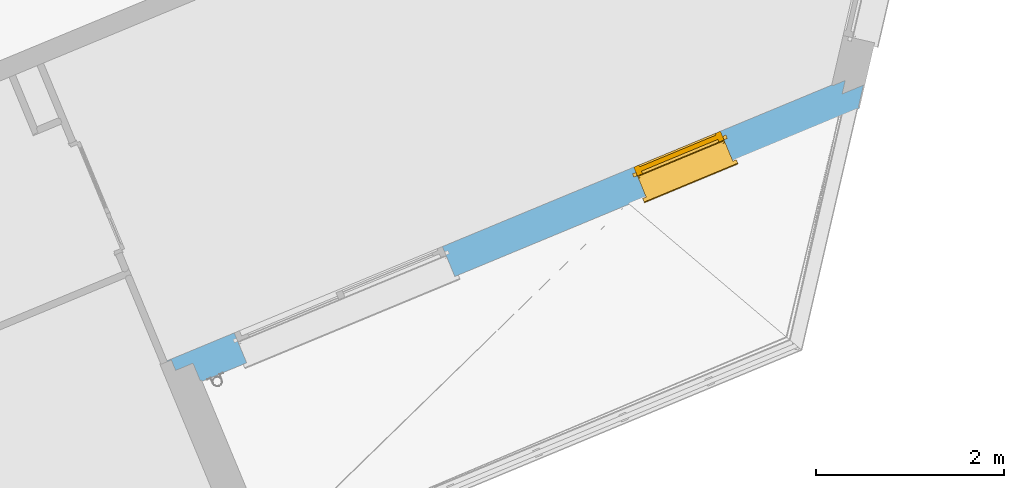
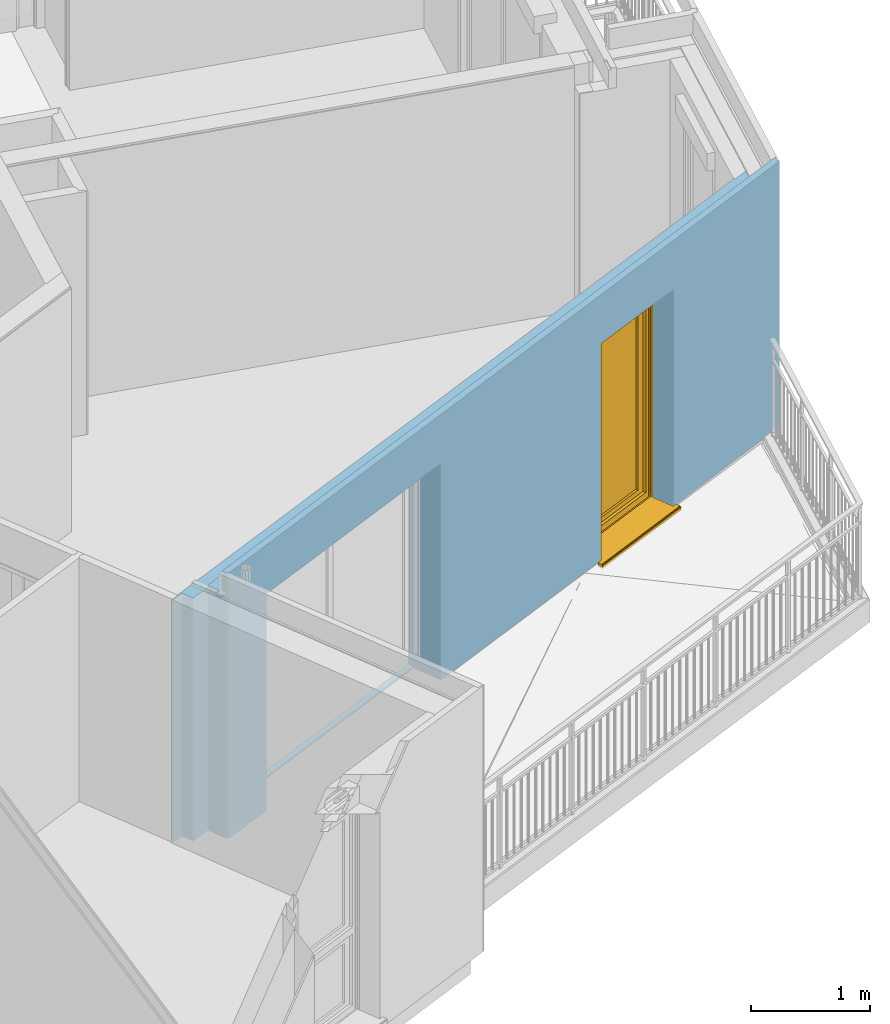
# One storey, part 13 of 91: 1 window, 2 openings, plus 1 element that does not belong to this part.
"""IFC2X3 building model written with IfcOpenShell, lengths in metres."""

from ifc_helpers import new_model, entity, si_unit, converted_unit, derived_unit, money_unit, direction, frame, origin_with_axes, place, context, subcontext, project, spatial, open_shell, faceted_brep, surface_model, source, transform, mapped, material, material_list, type_object, element, fill, save


model = new_model("IFC2X3")

# Units and contexts
model_context = context("Model", 3, precision=1e-05, world=origin_with_axes(), true_north=direction((0.0, 1.0)))
body_context = subcontext(model_context, "Body", "Model", "MODEL_VIEW")
ifc_project = project(units=[si_unit("LENGTHUNIT", "METRE"), si_unit("AREAUNIT", "SQUARE_METRE"), si_unit("VOLUMEUNIT", "CUBIC_METRE"), converted_unit("PLANEANGLEUNIT", "DEGREE", entity("IfcPlaneAngleMeasure", 0.0174532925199), si_unit("PLANEANGLEUNIT", "RADIAN"), dimensions=[0, 0, 0, 0, 0, 0, 0]), si_unit("SOLIDANGLEUNIT", "STERADIAN"), money_unit("EUR"), converted_unit("TIMEUNIT", "Year", entity("IfcTimeMeasure", 31556926.0), si_unit("TIMEUNIT", "SECOND"), dimensions=[0, 0, 1, 0, 0, 0, 0]), si_unit("MASSUNIT", "GRAM", prefix="KILO"), si_unit("THERMODYNAMICTEMPERATUREUNIT", "DEGREE_CELSIUS"), si_unit("LUMINOUSINTENSITYUNIT", "LUMEN"), si_unit("ENERGYUNIT", "JOULE", prefix="MEGA"), derived_unit("THERMALCONDUCTANCEUNIT", [(si_unit("POWERUNIT", "WATT"), 1), (si_unit("LENGTHUNIT", "METRE"), -1), (si_unit("THERMODYNAMICTEMPERATUREUNIT", "KELVIN"), -1)]), derived_unit("SPECIFICHEATCAPACITYUNIT", [(si_unit("ENERGYUNIT", "JOULE"), 1), (si_unit("MASSUNIT", "GRAM", prefix="KILO"), -1), (si_unit("THERMODYNAMICTEMPERATUREUNIT", "KELVIN"), -1)]), derived_unit("MASSDENSITYUNIT", [(si_unit("MASSUNIT", "GRAM", prefix="KILO"), 1), (si_unit("VOLUMEUNIT", "CUBIC_METRE"), -1)])], contexts=[model_context])

# Site, building, storey
site_placement = place(None, origin_with_axes())
site = spatial("IfcSite", under=ifc_project, at=site_placement, Name="Site", CompositionType="ELEMENT")
building_placement = place(site_placement, origin_with_axes())
building = spatial("IfcBuilding", under=site, at=building_placement, Name="Bâtiment", CompositionType="ELEMENT")
storey_placement = place(building_placement, frame((0.0, 0.0, 5.44), z_axis=(0.0, 0.0, 1.0), x_axis=(1.0, 0.0, 0.0)))
storey = spatial("IfcBuildingStorey", under=building, at=storey_placement, Name="R+2", CompositionType="ELEMENT", Elevation=5.44)

# Wall, openings, window
ifc_material_1 = material(Name="Finition int - Plaque de plâtre")
ifc_material_2 = material(Name="Isolation - Polystyrène extrudé")
ifc_material_3 = material(Name="Bloc ELITHERM")
ifc_material_4 = material(Name="Mortier")
ifc_material_5 = material(Name="Béton cellulaire")
ifc_material_6 = material(Name="Finition ext - Crépis")
ifc_material_list = material_list([ifc_material_1, ifc_material_2, ifc_material_3, ifc_material_4, ifc_material_5, ifc_material_6])
wall_type = type_object("IfcWallType", Name="Mur ALKERN + planelle 21 345 x 2720", PredefinedType="USERDEFINED")
wall_placement = place(storey_placement, frame((-14.6264330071, -23.0257640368, 0.0), z_axis=(0.0, 0.0, 1.0), x_axis=(0.923701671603, 0.383112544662, 0.0)))
wall = element("IfcWall", 1, at=wall_placement, inside=storey, type_object=wall_type, material=ifc_material_list, Name="Mue bloc ALKERN isolé", ObjectType="SOLIDWALL", context=body_context, shape_type="Brep", body=[
    faceted_brep([(-0.33499999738, 0.335000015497, 0.0), (7.40679732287, 0.335000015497, 0.0), (7.40679732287, 0.335000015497, 2.49), (-0.0829999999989, 0.335000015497, 2.49), (-0.33499999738, 0.335000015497, 2.49000000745), (0.514335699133, 0.335000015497, 2.22), (0.514335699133, 0.335000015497, 2.4), (2.91433569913, 0.335000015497, 2.4), (2.91433569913, 0.335000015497, 2.22), (2.91433569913, 0.335000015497, 0.02), (0.514335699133, 0.335000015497, 0.02), (5.12005784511, 0.335000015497, 2.22), (5.12005784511, 0.335000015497, 2.4), (6.12005784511, 0.335000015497, 2.4), (6.12005784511, 0.335000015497, 2.22), (6.12005784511, 0.335000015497, 0.02), (5.12005784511, 0.335000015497, 0.02), (-0.33499999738, 0.34499998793, 0.0), (7.41393608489, 0.34499998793, 0.0), (7.41393608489, 0.34499998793, 2.49), (-0.0829999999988, 0.34499998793, 2.49), (-0.0149999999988, 0.34499998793, 2.49), (-0.33499999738, 0.34499998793, 2.49000000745), (0.514335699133, 0.34499998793, 2.22), (0.514335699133, 0.34499998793, 2.4), (2.91433569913, 0.34499998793, 2.4), (2.91433569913, 0.34499998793, 2.22), (2.91433569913, 0.34499998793, 0.02), (0.514335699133, 0.34499998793, 0.02), (5.12005784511, 0.34499998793, 2.22), (5.12005784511, 0.34499998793, 2.4), (6.12005784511, 0.34499998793, 2.4), (6.12005784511, 0.34499998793, 2.22), (6.12005784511, 0.34499998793, 0.02), (5.12005784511, 0.34499998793, 0.02)], [[[0, 1, 2, 3, 4], [5, 6, 7, 8, 9, 10], [11, 12, 13, 14, 15, 16]], [[17, 18, 1, 0]], [[19, 2, 1, 18]], [[20, 3, 2, 19, 21]], [[4, 3, 20, 22]], [[17, 0, 4, 22]], [[23, 24, 6, 5]], [[24, 25, 7, 6]], [[25, 26, 8, 7]], [[27, 9, 8, 26]], [[28, 10, 9, 27]], [[10, 28, 23, 5]], [[12, 11, 29, 30]], [[13, 12, 30, 31]], [[14, 13, 31, 32]], [[14, 32, 33, 15]], [[15, 33, 34, 16]], [[29, 11, 16, 34]], [[21, 19, 18, 17, 22, 20], [24, 23, 28, 27, 26, 25], [30, 29, 34, 33, 32, 31]]]),
    faceted_brep([(6.12005784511, 0.245, 0.02), (6.12005784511, 0.215000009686, 0.02), (6.12005784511, 0.215, 2.22), (6.12005784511, 0.245, 2.22), (6.12005784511, 0.215000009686, 0.0), (6.12005784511, 0.286, 0.02), (6.12005784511, 0.286, 0.0), (5.12005784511, 0.215000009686, 0.0), (5.12005784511, 0.215000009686, 0.02), (5.12005784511, 0.215, 2.22), (5.12005784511, 0.215, 2.4), (6.12005784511, 0.215, 2.4), (7.46857198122, 0.215000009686, 0.0), (7.46857198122, 0.214999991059, 2.49), (-0.0829999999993, 0.215000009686, 2.49), (-0.214999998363, 0.215000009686, 2.49000000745), (-0.214999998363, 0.215000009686, 0.0), (0.514335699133, 0.215000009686, 0.0), (0.514335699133, 0.215000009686, 0.02), (0.514335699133, 0.215, 2.22), (0.514335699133, 0.215, 2.4), (2.91433569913, 0.215, 2.4), (2.91433569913, 0.215, 2.22), (2.91433569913, 0.215000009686, 0.02), (2.91433569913, 0.215000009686, 0.0), (6.12005784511, 0.335000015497, 2.4), (6.12005784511, 0.335000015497, 2.22), (6.12005784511, 0.335000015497, 0.02), (5.12005784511, 0.286, 0.02), (5.12005784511, 0.286, 0.0), (2.91433569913, 0.286, 0.0), (0.514335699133, 0.286, 0.0), (-0.214999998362, 0.335000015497, 0.0), (7.5542373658, 0.335000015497, 0.0), (5.12005784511, 0.245, 0.02), (5.12005784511, 0.245, 2.22), (5.12005784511, 0.335000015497, 2.22), (5.12005784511, 0.335000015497, 2.4), (7.5542373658, 0.335000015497, 2.49), (-0.0829999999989, 0.335000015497, 2.49), (-0.214999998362, 0.335000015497, 2.49000000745), (0.514335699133, 0.286, 0.02), (0.514335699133, 0.245, 0.02), (0.514335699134, 0.245, 2.22), (0.514335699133, 0.335000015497, 2.22), (0.514335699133, 0.335000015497, 2.4), (2.91433569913, 0.335000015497, 2.4), (2.91433569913, 0.335000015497, 2.22), (2.91433569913, 0.245, 2.22), (2.91433569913, 0.245, 0.02), (2.91433569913, 0.286, 0.02), (2.91433569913, 0.335000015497, 0.02), (0.514335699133, 0.335000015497, 0.02), (5.12005784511, 0.335000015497, 0.02)], [[[0, 1, 2, 3]], [[4, 1, 0, 5, 6]], [[7, 8, 9, 10, 11, 2, 1, 4, 12, 13, 14, 15, 16, 17, 18, 19, 20, 21, 22, 23, 24]], [[25, 26, 3, 2, 11]], [[5, 0, 3, 26, 27]], [[5, 28, 29, 6]], [[29, 7, 24, 30, 31, 17, 16, 32, 33, 12, 4, 6]], [[34, 8, 7, 29, 28]], [[8, 34, 35, 9]], [[35, 36, 37, 10, 9]], [[10, 37, 25, 11]], [[38, 13, 12, 33]], [[13, 38, 39, 14]], [[15, 14, 39, 40]], [[32, 16, 15, 40]], [[31, 41, 42, 18, 17]], [[18, 42, 43, 19]], [[20, 19, 43, 44, 45]], [[20, 45, 46, 21]], [[22, 21, 46, 47, 48]], [[49, 23, 22, 48]], [[50, 30, 24, 23, 49]], [[33, 32, 40, 39, 38], [51, 47, 46, 45, 44, 52], [27, 26, 25, 37, 36, 53]], [[28, 5, 27, 53]], [[50, 41, 31, 30]], [[34, 28, 53, 36, 35]], [[44, 43, 42, 41, 52]], [[47, 51, 50, 49, 48]], [[41, 50, 51, 52]]]),
    faceted_brep([(6.12005784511, 0.015, 0.02), (6.12005784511, 0.015, 0.0), (7.57152969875, 0.015, 0.0), (7.57152969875, 0.015, 2.50999999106), (-0.0149999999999, 0.015, 2.50999999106), (-0.0149999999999, 0.015, 0.0), (0.514335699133, 0.015, 0.0), (0.514335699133, 0.015, 0.02), (0.514335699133, 0.015, 2.22), (2.91433569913, 0.015, 2.22), (2.91433569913, 0.015, 0.02), (2.91433569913, 0.015, 0.0), (5.12005784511, 0.015, 0.0), (5.12005784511, 0.015, 0.02), (5.12005784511, 0.015, 2.22), (6.12005784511, 0.015, 2.22), (6.12005784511, 0.214999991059, 0.02), (6.12005784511, 0.214999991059, 0.0), (6.12005784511, 0.214999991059, 2.22), (7.71430532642, 0.214999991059, 0.0), (7.71430532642, 0.214999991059, 2.50999999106), (7.62007340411, 0.0829999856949, 2.50999999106), (-0.0149999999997, 0.0829999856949, 2.50999999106), (-0.0149999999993, 0.214999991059, 0.0), (-0.0149999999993, 0.214999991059, 2.50999999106), (0.514335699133, 0.214999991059, 0.0), (0.514335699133, 0.214999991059, 0.02), (0.514335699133, 0.214999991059, 2.22), (2.91433569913, 0.214999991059, 2.22), (2.91433569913, 0.214999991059, 0.02), (2.91433569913, 0.214999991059, 0.0), (5.12005784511, 0.214999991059, 0.0), (5.12005784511, 0.214999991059, 0.02), (5.12005784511, 0.214999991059, 2.22)], [[[0, 1, 2, 3, 4, 5, 6, 7, 8, 9, 10, 11, 12, 13, 14, 15]], [[16, 17, 1, 0, 15, 18]], [[1, 17, 19, 2]], [[3, 2, 19, 20, 21]], [[3, 21, 22, 4]], [[23, 5, 4, 22, 24]], [[5, 23, 25, 6]], [[7, 6, 25, 26, 27, 8]], [[28, 9, 8, 27]], [[29, 30, 11, 10, 9, 28]], [[31, 12, 11, 30]], [[13, 12, 31, 32, 33, 14]], [[14, 33, 18, 15]], [[17, 16, 18, 33, 32, 31, 30, 29, 28, 27, 26, 25, 23, 24, 20, 19]], [[21, 20, 24, 22]]]),
    faceted_brep([(7.57152969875, 0.015, 2.51999999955), (7.62007341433, 0.083, 2.51999999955), (-0.0829999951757, 0.083, 2.52), (-0.0829999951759, 0.015, 2.52), (7.62007341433, 0.083, 2.50999999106), (7.57152969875, 0.015, 2.50999999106), (-0.0829999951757, 0.083, 2.51), (-0.0829999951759, 0.015, 2.51)], [[[0, 1, 2, 3]], [[4, 1, 0, 5]], [[1, 4, 6, 2]], [[6, 7, 3, 2]], [[5, 0, 3, 7]], [[4, 5, 7, 6]]]),
    faceted_brep([(7.57152969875, 0.015, 2.72), (7.60579585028, 0.0629999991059, 2.72), (-0.0149999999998, 0.0629999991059, 2.72), (-0.015, 0.015, 2.72), (7.60579585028, 0.0629999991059, 2.51999999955), (7.57152969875, 0.015, 2.51999999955), (-0.0149999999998, 0.0629999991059, 2.51999999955), (-0.0149999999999, 0.015, 2.51999999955)], [[[0, 1, 2, 3]], [[4, 1, 0, 5]], [[1, 4, 6, 2]], [[7, 3, 2, 6]], [[5, 0, 3, 7]], [[4, 5, 7, 6]]]),
    faceted_brep([(6.12005784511, 0.0, 0.02), (6.12005784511, 0.0, 0.0), (7.36423482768, 0.0, 0.0), (7.3764975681, 0.0, 0.0106237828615), (7.54855877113, 0.0, 0.0193762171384), (7.56082151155, 0.0, 0.01), (7.56082151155, 0.0, 0.0), (7.57925150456, 0.0, 0.0), (7.57925150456, 0.0, 2.72), (0.0, 0.0, 2.72), (0.0, 0.0, 0.0), (0.514335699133, 0.0, 0.0), (0.514335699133, 0.0, 0.02), (0.514335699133, 0.0, 2.22), (2.91433569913, 0.0, 2.22), (2.91433569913, 0.0, 0.02), (2.91433569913, 0.0, 0.0), (5.12005784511, 0.0, 0.0), (5.12005784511, 0.0, 0.02), (5.12005784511, 0.0, 2.22), (6.12005784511, 0.0, 2.22), (6.12005784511, 0.0149999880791, 0.02), (6.12005784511, 0.0149999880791, 0.0), (7.37494299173, 0.0149999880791, 0.0), (7.38720573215, 0.0149999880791, 0.0106237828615), (7.55926693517, 0.0149999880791, 0.0193762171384), (7.57152967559, 0.0149999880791, 0.01), (7.57152967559, 0.0149999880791, 0.0), (7.5899596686, 0.0149999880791, 0.0), (7.5899596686, 0.0149999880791, 2.72), (0.0, 0.0149999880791, 2.72), (0.0, 0.0149999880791, 0.0), (0.514335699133, 0.0149999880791, 0.0), (0.514335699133, 0.0149999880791, 0.02), (0.514335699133, 0.0149999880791, 2.22), (2.91433569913, 0.0149999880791, 2.22), (2.91433569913, 0.0149999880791, 0.02), (2.91433569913, 0.0149999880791, 0.0), (5.12005784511, 0.0149999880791, 0.0), (5.12005784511, 0.0149999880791, 0.02), (5.12005784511, 0.0149999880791, 2.22), (6.12005784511, 0.0149999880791, 2.22)], [[[0, 1, 2, 3, 4, 5, 6, 7, 8, 9, 10, 11, 12, 13, 14, 15, 16, 17, 18, 19, 20]], [[1, 0, 21, 22]], [[1, 22, 23, 2]], [[2, 23, 24, 3]], [[3, 24, 25, 4]], [[4, 25, 26, 5]], [[5, 26, 27, 6]], [[7, 6, 27, 28]], [[8, 7, 28, 29]], [[29, 30, 9, 8]], [[10, 9, 30, 31]], [[10, 31, 32, 11]], [[11, 32, 33, 12]], [[34, 13, 12, 33]], [[35, 14, 13, 34]], [[14, 35, 36, 15]], [[36, 37, 16, 15]], [[38, 17, 16, 37]], [[39, 18, 17, 38]], [[18, 39, 40, 19]], [[19, 40, 41, 20]], [[21, 0, 20, 41]], [[22, 21, 41, 40, 39, 38, 37, 36, 35, 34, 33, 32, 31, 30, 29, 28, 27, 26, 25, 24, 23]]]),
])
opening_1_placement = place(wall_placement, frame((1.71433569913, 0.0, 0.02), z_axis=(0.0, 0.0, 1.0), x_axis=(1.0, 0.0, 0.0)))
element("IfcOpeningElement", 2, at=opening_1_placement, cuts=wall, Name="MEN 92", context=body_context, shape_type="Brep", body=[
    faceted_brep([(-1.2, 0.83499998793, 0.0), (1.2, 0.83499998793, 0.0), (1.2, 0.245, 0.0), (-1.2, 0.245, 0.0), (-1.2, 0.83499998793, 2.2), (1.2, 0.83499998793, 2.2), (1.2, 0.245, 2.2), (-1.2, 0.245, 2.2)], [[[0, 1, 2, 3]], [[0, 4, 5, 1]], [[1, 5, 6, 2]], [[3, 2, 6, 7]], [[4, 0, 3, 7]], [[5, 4, 7, 6]]]),
    faceted_brep([(-1.2, -0.34499998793, 0.0), (-1.2, -0.34499998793, 2.2), (-1.2, 0.245, 2.2), (-1.2, 0.245, 0.0), (1.2, -0.34499998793, 0.0), (1.2, -0.34499998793, 2.2), (1.2, 0.245, 2.2), (1.2, 0.245, 0.0)], [[[0, 1, 2, 3]], [[0, 4, 5, 1]], [[1, 5, 6, 2]], [[3, 2, 6, 7]], [[4, 0, 3, 7]], [[5, 4, 7, 6]]]),
    faceted_brep([(-1.2, -0.34499998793, 0.0), (-1.2, -0.34499998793, 2.2), (-1.2, 0.245, 2.2), (-1.2, 0.245, 0.0), (1.2, -0.34499998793, 0.0), (1.2, -0.34499998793, 2.2), (1.2, 0.245, 2.2), (1.2, 0.245, 0.0)], [[[0, 1, 2, 3]], [[0, 4, 5, 1]], [[1, 5, 6, 2]], [[3, 2, 6, 7]], [[4, 0, 3, 7]], [[5, 4, 7, 6]]]),
    faceted_brep([(-1.2, 0.80499998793, 2.2), (1.2, 0.80499998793, 2.2), (1.2, 0.215, 2.2), (-1.2, 0.215, 2.2), (-1.2, 0.80499998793, 2.38), (1.2, 0.80499998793, 2.38), (1.2, 0.215, 2.38), (-1.2, 0.215, 2.38)], [[[0, 1, 2, 3]], [[0, 4, 5, 1]], [[1, 5, 6, 2]], [[3, 2, 6, 7]], [[4, 0, 3, 7]], [[5, 4, 7, 6]]]),
    faceted_brep([(-1.2, -0.30399998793, 0.0), (1.2, -0.30399998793, 0.0), (1.2, 0.286, 0.0), (-1.2, 0.286, 0.0), (-1.2, -0.30399998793, -0.06), (1.2, -0.30399998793, -0.06), (1.2, 0.286, -0.06), (-1.2, 0.286, -0.06)], [[[0, 1, 2, 3]], [[0, 4, 5, 1]], [[1, 5, 6, 2]], [[3, 2, 6, 7]], [[4, 0, 3, 7]], [[5, 4, 7, 6]]]),
])
opening_2_placement = place(wall_placement, frame((5.62005784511, 0.0, 0.02), z_axis=(0.0, 0.0, 1.0), x_axis=(1.0, 0.0, 0.0)))
opening_2 = element("IfcOpeningElement", 3, at=opening_2_placement, cuts=wall, Name="MEN 93", context=body_context, shape_type="Brep", body=[
    faceted_brep([(-0.5, 0.83499998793, 0.0), (0.5, 0.83499998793, 0.0), (0.5, 0.245, 0.0), (-0.5, 0.245, 0.0), (-0.5, 0.83499998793, 2.2), (0.5, 0.83499998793, 2.2), (0.5, 0.245, 2.2), (-0.5, 0.245, 2.2)], [[[0, 1, 2, 3]], [[0, 4, 5, 1]], [[1, 5, 6, 2]], [[3, 2, 6, 7]], [[4, 0, 3, 7]], [[5, 4, 7, 6]]]),
    faceted_brep([(-0.5, -0.34499998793, 0.0), (-0.5, -0.34499998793, 2.2), (-0.5, 0.245, 2.2), (-0.5, 0.245, 0.0), (0.5, -0.34499998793, 0.0), (0.5, -0.34499998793, 2.2), (0.5, 0.245, 2.2), (0.5, 0.245, 0.0)], [[[0, 1, 2, 3]], [[0, 4, 5, 1]], [[1, 5, 6, 2]], [[3, 2, 6, 7]], [[4, 0, 3, 7]], [[5, 4, 7, 6]]]),
    faceted_brep([(-0.5, -0.34499998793, 0.0), (-0.5, -0.34499998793, 2.2), (-0.5, 0.245, 2.2), (-0.5, 0.245, 0.0), (0.5, -0.34499998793, 0.0), (0.5, -0.34499998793, 2.2), (0.5, 0.245, 2.2), (0.5, 0.245, 0.0)], [[[0, 1, 2, 3]], [[0, 4, 5, 1]], [[1, 5, 6, 2]], [[3, 2, 6, 7]], [[4, 0, 3, 7]], [[5, 4, 7, 6]]]),
    faceted_brep([(-0.5, 0.80499998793, 2.2), (0.5, 0.80499998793, 2.2), (0.5, 0.215, 2.2), (-0.5, 0.215, 2.2), (-0.5, 0.80499998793, 2.38), (0.5, 0.80499998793, 2.38), (0.5, 0.215, 2.38), (-0.5, 0.215, 2.38)], [[[0, 1, 2, 3]], [[0, 4, 5, 1]], [[1, 5, 6, 2]], [[3, 2, 6, 7]], [[4, 0, 3, 7]], [[5, 4, 7, 6]]]),
    faceted_brep([(-0.5, -0.30399998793, 0.0), (0.5, -0.30399998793, 0.0), (0.5, 0.286, 0.0), (-0.5, 0.286, 0.0), (-0.5, -0.30399998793, -0.06), (0.5, -0.30399998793, -0.06), (0.5, 0.286, -0.06), (-0.5, 0.286, -0.06)], [[[0, 1, 2, 3]], [[0, 4, 5, 1]], [[1, 5, 6, 2]], [[3, 2, 6, 7]], [[4, 0, 3, 7]], [[5, 4, 7, 6]]]),
])
window_style = type_object("IfcWindowStyle", Name="Baie générique 2017 v2", ConstructionType="NOTDEFINED", OperationType="NOTDEFINED", ParameterTakesPrecedence=False, Sizeable=False)
shared_shape = source(origin_with_axes(), body_context, "Body", "SurfaceModel", [
    faceted_brep([(-0.5, 0.1, 0.0), (0.5, 0.1, 0.0), (0.5, 0.0, 0.0), (-0.5, 0.0, 0.0), (-0.5, 0.1, 2.2), (0.5, 0.1, 2.2), (-0.44, 0.1, 0.05), (0.44, 0.1, 0.05), (0.44, 0.1, 2.15), (-0.44, 0.1, 2.15), (0.5, 0.0, 2.2), (-0.5, 0.0, 2.2), (-0.44, 0.0, 0.05), (-0.44, 0.0, 2.15), (0.44, 0.0, 2.15), (0.44, 0.0, 0.05)], [[[0, 1, 2, 3]], [[0, 4, 5, 1], [6, 7, 8, 9]], [[1, 5, 10, 2]], [[3, 2, 10, 11], [12, 13, 14, 15]], [[4, 0, 3, 11]], [[5, 4, 11, 10]], [[7, 6, 12, 15]], [[8, 7, 15, 14]], [[9, 8, 14, 13]], [[6, 9, 13, 12]]]),
    faceted_brep([(0.44, 0.08, 2.15), (0.44, 0.08, 0.05), (-0.44, 0.08, 0.05), (-0.44, 0.08, 2.15), (0.37, 0.08, 2.08), (-0.37, 0.08, 2.08), (-0.37, 0.08, 0.1), (0.37, 0.08, 0.1), (0.44, 0.03, 2.15), (0.44, 0.03, 0.05), (-0.44, 0.03, 0.05), (-0.44, 0.03, 2.15), (0.37, 0.03, 2.08), (-0.37, 0.03, 2.08), (-0.37, 0.03, 0.1), (0.37, 0.03, 0.1)], [[[0, 1, 2, 3], [4, 5, 6, 7]], [[1, 0, 8, 9]], [[10, 2, 1, 9]], [[11, 3, 2, 10]], [[0, 3, 11, 8]], [[5, 4, 12, 13]], [[14, 6, 5, 13]], [[15, 7, 6, 14]], [[4, 7, 15, 12]], [[11, 10, 9, 8], [15, 14, 13, 12]]]),
    surface_model("IfcShellBasedSurfaceModel", [(-0.44, 0.08, 0.05), (-0.44, 0.055, 0.05), (-0.44, 0.055, 2.15), (-0.44, 0.08, 2.15)], [open_shell([[[0, 1, 2, 3]]])]),
    surface_model("IfcShellBasedSurfaceModel", [(0.44, 0.08, 0.05), (0.44, 0.055, 0.05), (0.44, 0.055, 2.15), (0.44, 0.08, 2.15)], [open_shell([[[0, 1, 2, 3]]])]),
    surface_model("IfcShellBasedSurfaceModel", [(-0.44, 0.08, 0.05), (-0.44, 0.055, 0.05), (0.44, 0.055, 0.05), (0.44, 0.08, 0.05)], [open_shell([[[0, 1, 2, 3]]])]),
    surface_model("IfcShellBasedSurfaceModel", [(-0.44, 0.08, 2.15), (-0.44, 0.055, 2.15), (0.44, 0.055, 2.15), (0.44, 0.08, 2.15)], [open_shell([[[0, 1, 2, 3]]])]),
    surface_model("IfcShellBasedSurfaceModel", [(-0.44, 0.055, 0.05), (-0.44, 0.03, 0.05), (-0.44, 0.03, 2.15), (-0.44, 0.055, 2.15)], [open_shell([[[0, 1, 2, 3]]])]),
    surface_model("IfcShellBasedSurfaceModel", [(0.44, 0.055, 0.05), (0.44, 0.03, 0.05), (0.44, 0.03, 2.15), (0.44, 0.055, 2.15)], [open_shell([[[0, 1, 2, 3]]])]),
    surface_model("IfcShellBasedSurfaceModel", [(-0.44, 0.055, 0.05), (-0.44, 0.03, 0.05), (0.44, 0.03, 0.05), (0.44, 0.055, 0.05)], [open_shell([[[0, 1, 2, 3]]])]),
    surface_model("IfcShellBasedSurfaceModel", [(-0.44, 0.055, 2.15), (-0.44, 0.03, 2.15), (0.44, 0.03, 2.15), (0.44, 0.055, 2.15)], [open_shell([[[0, 1, 2, 3]]])]),
    faceted_brep([(-0.37, 0.0575, 0.1), (0.37, 0.0575, 0.1), (0.37, 0.0525, 0.1), (-0.37, 0.0525, 0.1), (-0.37, 0.0575, 2.08), (0.37, 0.0575, 2.08), (0.37, 0.0525, 2.08), (-0.37, 0.0525, 2.08)], [[[0, 1, 2, 3]], [[0, 4, 5, 1]], [[1, 5, 6, 2]], [[3, 2, 6, 7]], [[4, 0, 3, 7]], [[5, 4, 7, 6]]]),
    faceted_brep([(-0.5, -0.03, 0.0), (-0.475, -0.03, 0.0), (-0.475, -0.03, 2.2), (-0.5, -0.03, 2.2), (-0.5, -0.002, 0.0), (-0.475, -0.002, 0.0), (-0.475, -0.004, 0.0), (-0.498, -0.004, 0.0), (-0.498, -0.028, 0.0), (-0.475, -0.028, 0.0), (-0.475, -0.028, 2.2), (-0.498, -0.028, 2.2), (-0.498, -0.004, 2.2), (-0.475, -0.004, 2.2), (-0.475, -0.002, 2.2), (-0.5, -0.002, 2.2)], [[[0, 1, 2, 3]], [[0, 4, 5, 6, 7, 8, 9, 1]], [[1, 9, 10, 2]], [[3, 2, 10, 11, 12, 13, 14, 15]], [[4, 0, 3, 15]], [[5, 4, 15, 14]], [[6, 5, 14, 13]], [[7, 6, 13, 12]], [[8, 7, 12, 11]], [[9, 8, 11, 10]]]),
    faceted_brep([(0.5, -0.03, 0.0), (0.5, -0.03, 2.2), (0.475, -0.03, 2.2), (0.475, -0.03, 0.0), (0.5, -0.002, 0.0), (0.5, -0.002, 2.2), (0.475, -0.002, 2.2), (0.475, -0.004, 2.2), (0.498, -0.004, 2.2), (0.498, -0.028, 2.2), (0.475, -0.028, 2.2), (0.475, -0.028, 0.0), (0.498, -0.028, 0.0), (0.498, -0.004, 0.0), (0.475, -0.004, 0.0), (0.475, -0.002, 0.0)], [[[0, 1, 2, 3]], [[4, 5, 1, 0]], [[1, 5, 6, 7, 8, 9, 10, 2]], [[3, 2, 10, 11]], [[0, 3, 11, 12, 13, 14, 15, 4]], [[15, 6, 5, 4]], [[14, 7, 6, 15]], [[13, 8, 7, 14]], [[12, 9, 8, 13]], [[11, 10, 9, 12]]]),
    faceted_brep([(0.498, -0.028, 2.2), (-0.498, -0.028, 2.2), (-0.498, -0.028, 2.378), (0.498, -0.028, 2.378), (0.498, -0.03, 2.2), (-0.498, -0.03, 2.2), (-0.498, -0.03, 2.38), (-0.498, 0.17, 2.38), (-0.498, 0.17, 2.2), (-0.498, 0.168, 2.2), (-0.498, 0.168, 2.378), (0.498, 0.168, 2.378), (0.498, 0.168, 2.2), (0.498, 0.17, 2.2), (0.498, 0.17, 2.38), (0.498, -0.03, 2.38)], [[[0, 1, 2, 3]], [[4, 5, 1, 0]], [[1, 5, 6, 7, 8, 9, 10, 2]], [[3, 2, 10, 11]], [[0, 3, 11, 12, 13, 14, 15, 4]], [[15, 6, 5, 4]], [[14, 7, 6, 15]], [[13, 8, 7, 14]], [[12, 9, 8, 13]], [[11, 10, 9, 12]]]),
    faceted_brep([(0.498, 0.0724697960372, 2.27436337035), (0.498, 0.08, 2.29), (0.498, 0.0724697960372, 2.30563662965), (0.498, 0.0555495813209, 2.30949855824), (0.498, 0.041980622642, 2.29867767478), (0.498, 0.041980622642, 2.28132232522), (0.498, 0.0555495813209, 2.27050144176), (-0.498, 0.0724697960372, 2.27436337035), (-0.498, 0.08, 2.29), (-0.498, 0.0724697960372, 2.30563662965), (-0.498, 0.0555495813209, 2.30949855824), (-0.498, 0.041980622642, 2.29867767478), (-0.498, 0.041980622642, 2.28132232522), (-0.498, 0.0555495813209, 2.27050144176)], [[[0, 1, 2, 3, 4, 5, 6]], [[0, 7, 8, 1]], [[1, 8, 9, 2]], [[2, 9, 10, 3]], [[3, 10, 11, 4]], [[4, 11, 12, 5]], [[5, 12, 13, 6]], [[6, 13, 7, 0]], [[7, 13, 12, 11, 10, 9, 8]]]),
    faceted_brep([(0.488, 0.130275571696, 2.25615706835), (0.488, 0.138, 2.29), (0.488, 0.130275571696, 2.32384293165), (0.488, 0.108632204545, 2.35098285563), (0.488, 0.0773566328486, 2.36604437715), (0.488, 0.0426433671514, 2.36604437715), (0.488, 0.011367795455, 2.35098285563), (0.488, -0.0102755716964, 2.32384293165), (0.488, -0.018, 2.29), (0.488, -0.0102755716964, 2.25615706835), (0.488, 0.011367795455, 2.22901714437), (0.488, 0.0426433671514, 2.21395562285), (0.488, 0.0773566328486, 2.21395562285), (0.488, 0.108632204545, 2.22901714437), (-0.488, 0.130275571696, 2.25615706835), (-0.488, 0.138, 2.29), (-0.488, 0.130275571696, 2.32384293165), (-0.488, 0.108632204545, 2.35098285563), (-0.488, 0.0773566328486, 2.36604437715), (-0.488, 0.0426433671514, 2.36604437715), (-0.488, 0.011367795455, 2.35098285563), (-0.488, -0.0102755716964, 2.32384293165), (-0.488, -0.018, 2.29), (-0.488, -0.0102755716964, 2.25615706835), (-0.488, 0.011367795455, 2.22901714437), (-0.488, 0.0426433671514, 2.21395562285), (-0.488, 0.0773566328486, 2.21395562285), (-0.488, 0.108632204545, 2.22901714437)], [[[0, 1, 2, 3, 4, 5, 6, 7, 8, 9, 10, 11, 12, 13]], [[0, 14, 15, 1]], [[1, 15, 16, 2]], [[2, 16, 17, 3]], [[3, 17, 18, 4]], [[4, 18, 19, 5]], [[5, 19, 20, 6]], [[6, 20, 21, 7]], [[7, 21, 22, 8]], [[8, 22, 23, 9]], [[9, 23, 24, 10]], [[10, 24, 25, 11]], [[11, 25, 26, 12]], [[12, 26, 27, 13]], [[13, 27, 14, 0]], [[14, 27, 26, 25, 24, 23, 22, 21, 20, 19, 18, 17, 16, 15]]]),
    faceted_brep([(0.5, 0.17, 2.2), (0.498, 0.17, 2.2), (0.498, 0.17, 2.38), (0.5, 0.17, 2.38), (0.5, -0.03, 2.2), (0.498, -0.03, 2.2), (0.498, -0.03, 2.38), (0.5, -0.03, 2.38)], [[[0, 1, 2, 3]], [[4, 5, 1, 0]], [[1, 5, 6, 2]], [[3, 2, 6, 7]], [[0, 3, 7, 4]], [[7, 6, 5, 4]]]),
    faceted_brep([(-0.498, 0.17, 2.2), (-0.5, 0.17, 2.2), (-0.5, 0.17, 2.38), (-0.498, 0.17, 2.38), (-0.498, -0.03, 2.2), (-0.5, -0.03, 2.2), (-0.5, -0.03, 2.38), (-0.498, -0.03, 2.38)], [[[0, 1, 2, 3]], [[4, 5, 1, 0]], [[1, 5, 6, 2]], [[3, 2, 6, 7]], [[0, 3, 7, 4]], [[7, 6, 5, 4]]]),
    faceted_brep([(0.498, -0.004, 2.2), (-0.498, -0.004, 2.2), (-0.498, 0.168, 2.2), (0.498, 0.168, 2.2), (0.498, -0.004, 2.202), (-0.498, -0.004, 2.202), (-0.498, 0.168, 2.202), (0.498, 0.168, 2.202)], [[[0, 1, 2, 3]], [[4, 5, 1, 0]], [[1, 5, 6, 2]], [[3, 2, 6, 7]], [[0, 3, 7, 4]], [[7, 6, 5, 4]]]),
    faceted_brep([(-0.488, -0.006, 2.2), (-0.488, -0.006, 2.29), (0.488, -0.006, 2.29), (0.488, -0.006, 2.2), (-0.488, -0.026, 2.2), (-0.488, -0.026, 2.29), (0.488, -0.026, 2.29), (0.488, -0.026, 2.2)], [[[0, 1, 2, 3]], [[1, 0, 4, 5]], [[2, 1, 5, 6]], [[3, 2, 6, 7]], [[4, 0, 3, 7]], [[5, 4, 7, 6]]]),
    faceted_brep([(0.5, -0.00167949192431, -0.01), (0.5, 0.0, -0.00373205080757), (0.54, 0.0, -0.00373205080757), (0.54, 0.001, 0.0), (-0.54, 0.001, 0.0), (-0.54, 0.0, -0.00373205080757), (-0.5, 0.0, -0.00373205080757), (-0.5, -0.00167949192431, -0.01), (0.5, -0.009, -0.0173205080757), (0.5, -0.019, -0.02), (0.5, -0.245, -0.02), (0.5, -0.245, -0.06), (0.5, 0.0, -0.06), (0.54, 0.0, -0.06), (0.54, 0.041, -0.06), (0.54, 0.041, 0.0), (-0.54, 0.041, 0.0), (-0.54, 0.041, -0.06), (-0.54, 0.0, -0.06), (-0.5, 0.0, -0.06), (-0.5, -0.245, -0.02), (-0.5, -0.019, -0.02), (-0.5, -0.009, -0.0173205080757), (-0.5, -0.245, -0.06), (-0.54, -0.245, -0.02), (-0.54, -0.285, -0.02), (0.54, -0.285, -0.02), (0.54, -0.245, -0.02), (0.54, -0.245, -0.06), (0.54, -0.275, -0.06), (-0.54, -0.275, -0.06), (-0.54, -0.245, -0.06), (-0.54, -0.295, -0.03), (-0.54, -0.292071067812, -0.0229289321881), (-0.54, -0.275, -0.05), (-0.54, -0.285, -0.05), (-0.54, -0.285, -0.06), (-0.54, -0.295, -0.06), (0.54, -0.292071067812, -0.0229289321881), (0.54, -0.295, -0.03), (0.54, -0.295, -0.06), (0.54, -0.285, -0.06), (0.54, -0.285, -0.05), (0.54, -0.275, -0.05)], [[[0, 1, 2, 3, 4, 5, 6, 7]], [[1, 0, 8, 9, 10, 11, 12]], [[13, 2, 1, 12]], [[2, 13, 14, 15, 3]], [[16, 4, 3, 15]], [[4, 16, 17, 18, 5]], [[5, 18, 19, 6]], [[20, 21, 22, 7, 6, 19, 23]], [[8, 0, 7, 22]], [[9, 8, 22, 21]], [[10, 9, 21, 20, 24, 25, 26, 27]], [[10, 27, 28, 11]], [[11, 28, 29, 30, 31, 23, 19, 18, 17, 14, 13, 12]], [[17, 16, 15, 14]], [[20, 23, 31, 24]], [[32, 33, 25, 24, 31, 30, 34, 35, 36, 37]], [[25, 33, 38, 26]], [[28, 27, 26, 38, 39, 40, 41, 42, 43, 29]], [[34, 30, 29, 43]], [[33, 32, 39, 38]], [[35, 34, 43, 42]], [[36, 35, 42, 41]], [[37, 36, 41, 40]], [[32, 37, 40, 39]]]),
])
window_placement = place(opening_2_placement, frame((-0.5, 0.0, 0.0), z_axis=(0.0, 0.0, 1.0), x_axis=(1.0, 0.0, 0.0)))
window = element("IfcWindow", 4, at=window_placement, inside=storey, type_object=window_style, Name="MEN 93", ObjectType="WINDOW", OverallHeight=2.2, OverallWidth=1.0, context=body_context, shape_type="MappedRepresentation", body=[
    mapped(shared_shape, transform((0.5, 0.245, 0.0))),
])
fill(opening_2, window)

save(model, "model.ifc")
